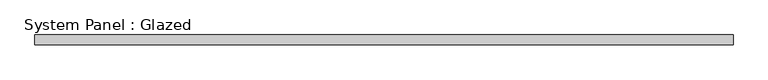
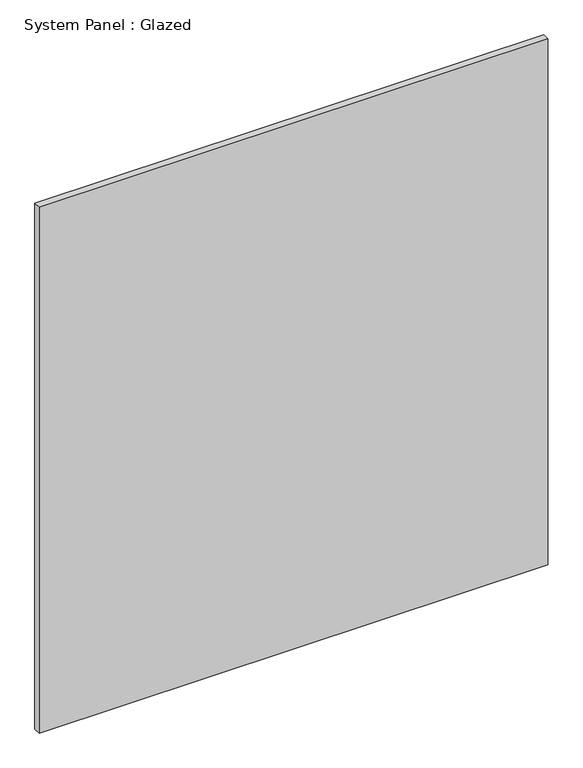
"""IFC4 building model written with IfcOpenShell, lengths in millimetres: plate geometry, System Panel : Glazed."""

from ifc_helpers import new_model, si_unit, origin, origin_with_axes, place, context, project, spatial, polyline, outline, extrude, source, transform, mapped, element, save


def system_panel_glazed_ef6396a6(model_context):
    return source(origin(), model_context, "Body", "SweptSolid", [
        extrude(outline(polyline([(907.033577, 19.05), (-907.033577, 19.05), (-907.033577, 44.45), (907.033577, 44.45), (907.033577, 19.05)])), origin_with_axes(), (0.0, 0.0, 1.0), 1981.2),
    ])


if __name__ == "__main__":
    model = new_model("IFC4")
    model_context = context("Model", 3, world=origin())
    ifc_project = project(units=[si_unit("LENGTHUNIT", "METRE", prefix="MILLI")], contexts=[model_context])
    site = spatial("IfcSite", under=ifc_project)
    building = spatial("IfcBuilding", under=site)
    placement = place(None, origin())
    system_panel_glazed_shape = system_panel_glazed_ef6396a6(model_context)
    element("IfcPlate", 1, ObjectType="System Panel : Glazed", at=placement, inside=building, context=model_context, shape_type="MappedRepresentation", body=[
        mapped(system_panel_glazed_shape, transform((0.0, 0.0, 0.0), x_axis=(1.0, 0.0, 0.0), y_axis=(0.0, 1.0, 0.0), z_axis=(0.0, 0.0, 1.0))),
    ])
    save(model, "model.ifc")
